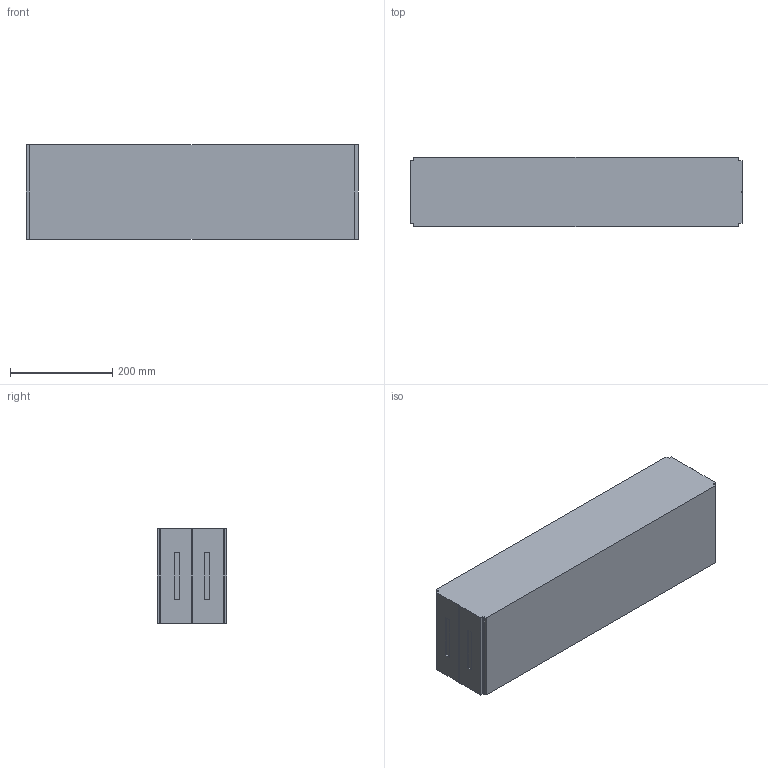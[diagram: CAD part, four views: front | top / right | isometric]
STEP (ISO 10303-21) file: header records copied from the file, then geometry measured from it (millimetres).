
FILE_DESCRIPTION (( 'STEP AP214' ), '1' );
FILE_NAME ('FS-MTC2-150-INOX Kettingmont. eenheid.650 Kettingmont.STEP', '2017-02-08T12:41:22', ( '' ), ( '' ), 'SwSTEP 2.0', 'SolidWorks 2016', '' );
FILE_SCHEMA (( 'AUTOMOTIVE_DESIGN' ));
Length unit declared in the file: millimetre
Products named in the file (1): FS-MTC2-150-INOX Kettingmont. eenheid.650 Kettingmont
Bounding box: 650.5 x 136.5 x 185 mm (x, y, z)
Volume: 16380618.8 mm3; surface area: 471140.5 mm2
Topology: 1 solids, 1 shells, 50 faces, 132 edges, 88 vertices
Faces by surface type: plane 50
Entity records: 1550 total; most frequent: CARTESIAN_POINT 271, ORIENTED_EDGE 264, DIRECTION 234, LINE 132, EDGE_CURVE 132, VECTOR 132, VERTEX_POINT 88, EDGE_LOOP 54
